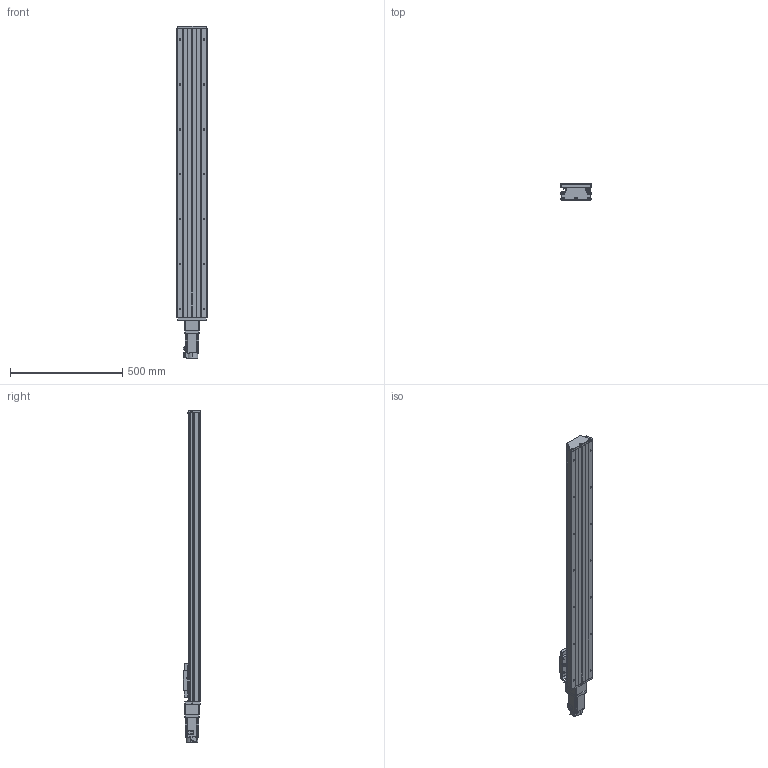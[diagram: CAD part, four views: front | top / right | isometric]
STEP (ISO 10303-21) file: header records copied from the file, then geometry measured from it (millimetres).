
FILE_DESCRIPTION (( 'STEP AP203' ), '1' );
FILE_NAME ('CTH130-1100-BC-M40-C4.step', '2023-06-30T02:31:20', ( '微软用户' ), ( '微软中国' ), 'SwSTEP 2.0', 'SolidWorks 2020', '' );
FILE_SCHEMA (( 'CONFIG_CONTROL_DESIGN' ));
Length unit declared in the file: millimetre
Products named in the file (21): CTH130-031; HG-KN43J-S100; GBT70.1 M5℅16; GBT 70.2-M3¡Á5_M3¡Á6; CTH130-1100-BC-M40-C4; GTH14-001_1100; CTHA60-017; す晦芛蹟隊 M3℅5; CTH130-002_GTH14-002; EE_SX911P_R; CTHA86-006-1_M40; GB T308.1-2013-6.35; CTHA60-016; CTHA86-013; GTH14-004; GBT 70.1-M3℅5; CTHA86-027-1; GTH14-005; GBT77-2000 M3×3; GBT 70.3-M3℅8; GB1155-6X6
Assembly tree (59 placements, depth 2):
  CTH130-1100-BC-M40-C4
    GTH14-001_1100
    CTH130-002_GTH14-002
    GB T308.1-2013-6.35  x2
    GTH14-004
    GTH14-005
    GB1155-6X6  x2
    GBT70.1 M5℅16  x10
    CTHA60-017  x3
    EE_SX911P_R  x3
    CTHA60-016  x2
    GBT 70.1-M3℅5  x6
    GBT77-2000 M3×3  x6
    CTH130-031
    GBT 70.2-M3¡Á5_M3¡Á6  x8
    す晦芛蹟隊 M3℅5  x6
    CTHA86-006-1_M40
    CTHA86-013
    CTHA86-027-1
    GBT 70.3-M3℅8  x2
    HG-KN43J-S100
Bounding box: 135 x 76 x 1478.7 mm (x, y, z)
Volume: 7126378.2 mm3; surface area: 1085560.1 mm2
Topology: 62 solids, 62 shells, 2400 faces, 5729 edges, 3551 vertices
Faces by surface type: plane 1307, cylinder 642, cone 287, torus 120, sphere 24, bspline 20
Entity records: 44296 total; most frequent: CARTESIAN_POINT 9905, DIRECTION 6451, ORIENTED_EDGE 6358, EDGE_CURVE 3179, AXIS2_PLACEMENT_3D 2193, LINE 2065, VECTOR 2065, VERTEX_POINT 2011
